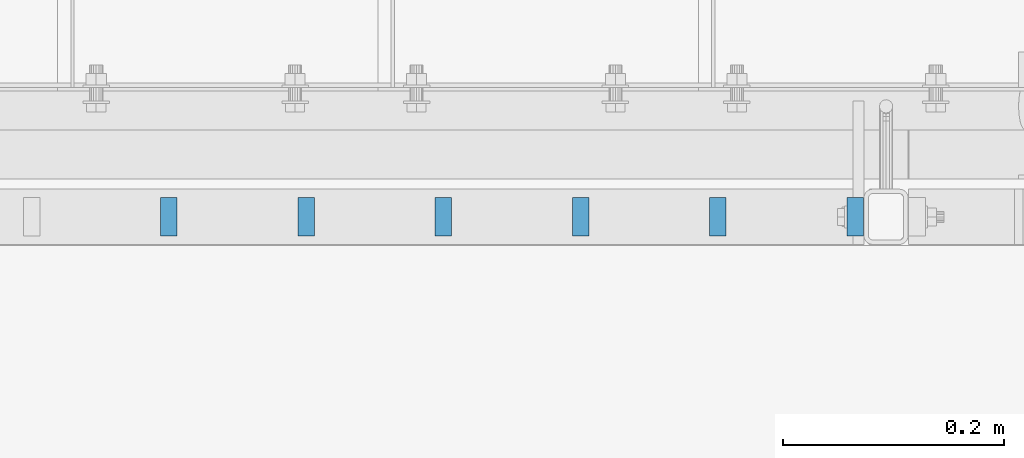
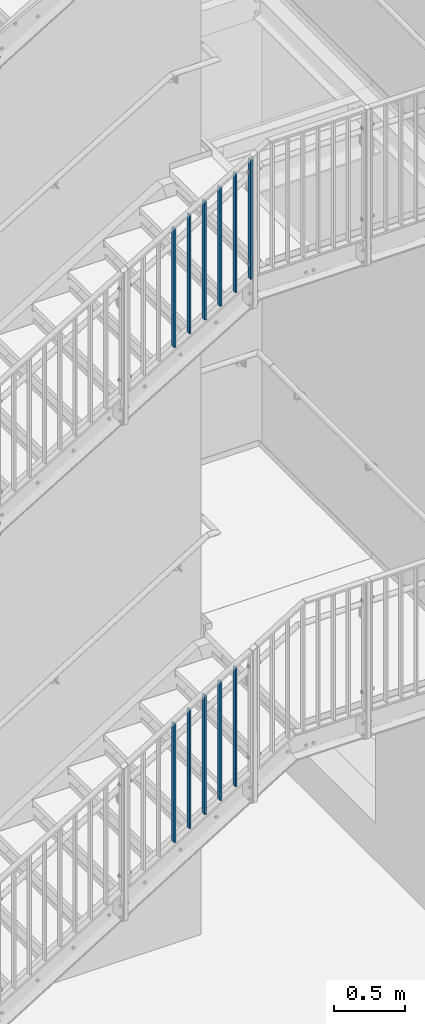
# One storey, part 18 of 410: 11 columns, 2 openings.
"""IFC2X3 building model written with IfcOpenShell, lengths in millimetres."""

import ifcopenshell
import ifcopenshell.guid

model = None  # the IFC model being written
_history = None  # IfcOwnerHistory: only IFC2X3 demands one
_inside = {}  # id of a spatial element -> (the spatial element, [elements in it])
_under = {}  # id of a project, library or spatial element -> (it, [spatial elements below it])
_declared = {}  # id of a project -> (the project, [libraries it declares])
_typed = {}  # id of a type object -> (the type object, [elements of that type])
_made_of = {}  # id of a material, layer set ... -> (it, [elements and type objects made of it])


def new_model(schema):
    """Start an empty IFC model of exactly this schema.

    Asked for "IFC4X3", IfcOpenShell would pick the latest addendum, in which some entities
    have other attributes; the version numbers below select the first issue.
    IFC2X3 requires an IfcOwnerHistory on every rooted entity: one is made here for all.
    """
    global model, _history
    if schema == "IFC4X3":
        model = ifcopenshell.file(schema_version=(4, 3, 0, 0))
    else:
        model = ifcopenshell.file(schema=schema)
    _inside.clear()
    _under.clear()
    _declared.clear()
    _typed.clear()
    _made_of.clear()
    _history = None
    if model.schema == "IFC2X3":
        org = make("IfcOrganization", Name="unknown")
        user = make(
            "IfcPersonAndOrganization",
            ThePerson=make("IfcPerson", FamilyName="unknown"),
            TheOrganization=org,
        )
        app = make(
            "IfcApplication",
            ApplicationDeveloper=org,
            Version="unknown",
            ApplicationFullName="unknown",
            ApplicationIdentifier="unknown",
        )
        _history = make(
            "IfcOwnerHistory",
            OwningUser=user,
            OwningApplication=app,
            ChangeAction="ADDED",
            CreationDate=0,
        )
    return model


def make(cls, **values):
    """One entity of the class cls with the attributes given. An attribute that is None is left unset."""
    return model.create_entity(
        cls, **{name: value for name, value in values.items() if value is not None}
    )


def entity(cls, *values):
    """Any entity or typed value of the class cls, its attributes in the order of the schema. None: left unset."""
    e = model.create_entity(cls)
    for i, value in enumerate(values):
        if value is not None:
            e[i] = value
    return e


def rooted(cls, **values):
    """An entity with a GlobalId (a new one), such as an element, a storey or a relation."""
    return make(cls, GlobalId=ifcopenshell.guid.new(), OwnerHistory=_history, **values)


def si_unit(unit_type, name, prefix=None):
    """IfcSIUnit, for example si_unit("LENGTHUNIT", "METRE", prefix="MILLI")."""
    return make("IfcSIUnit", UnitType=unit_type, Prefix=prefix, Name=name)


def converted_unit(unit_type, name, factor, base, dimensions=None, offset=None):
    """IfcConversionBasedUnit, such as the inch: factor (a typed value) times the base unit."""
    return make(
        "IfcConversionBasedUnit"
        if offset is None
        else "IfcConversionBasedUnitWithOffset",
        ConversionOffset=offset,
        Dimensions=None
        if dimensions is None
        else entity("IfcDimensionalExponents", *dimensions),
        UnitType=unit_type,
        Name=name,
        ConversionFactor=make(
            "IfcMeasureWithUnit", ValueComponent=factor, UnitComponent=base
        ),
    )


def assignment(units):
    """IfcUnitAssignment: the units of a project."""
    return None if units is None else make("IfcUnitAssignment", Units=units)


def point(xyz):
    """IfcCartesianPoint."""
    return None if xyz is None else make("IfcCartesianPoint", Coordinates=xyz)


def direction(xyz):
    """IfcDirection."""
    return None if xyz is None else make("IfcDirection", DirectionRatios=xyz)


def frame(location, z_axis=None, x_axis=None):
    """IfcAxis2Placement3D, a coordinate frame: its origin and axes. An axis left out is left unset."""
    return make(
        "IfcAxis2Placement3D",
        Location=point(location),
        Axis=direction(z_axis),
        RefDirection=direction(x_axis),
    )


def frame_2d(location, x_axis=None):
    """IfcAxis2Placement2D, a coordinate frame in the plane: its origin and x axis."""
    return make(
        "IfcAxis2Placement2D", Location=point(location), RefDirection=direction(x_axis)
    )


def origin():
    """The frame at (0, 0, 0) with its axes left unset."""
    return frame((0.0, 0.0, 0.0))


def origin_with_axes():
    """The frame at (0, 0, 0) with the z axis (0, 0, 1) and the x axis (1, 0, 0) written out."""
    return frame((0.0, 0.0, 0.0), z_axis=(0.0, 0.0, 1.0), x_axis=(1.0, 0.0, 0.0))


def origin_2d():
    """The frame at (0, 0) in the plane with its x axis left unset."""
    return frame_2d((0.0, 0.0))


def place(relative_to, where):
    """IfcLocalPlacement: puts the frame where relative to a parent placement (None: the world)."""
    return make(
        "IfcLocalPlacement", PlacementRelTo=relative_to, RelativePlacement=where
    )


def context(
    kind, dimensions, precision=None, world=None, true_north=None, identifier=None
):
    """IfcGeometricRepresentationContext, for example the 3D "Model" context."""
    return make(
        "IfcGeometricRepresentationContext",
        ContextIdentifier=identifier,
        ContextType=kind,
        CoordinateSpaceDimension=dimensions,
        Precision=precision,
        WorldCoordinateSystem=world,
        TrueNorth=true_north,
    )


def project(units=None, contexts=None):
    """IfcProject with its units and contexts."""
    return rooted(
        "IfcProject",
        Name="project",
        RepresentationContexts=contexts,
        UnitsInContext=assignment(units),
    )


def spatial(cls, under=None, at=None, **own):
    """A site, building, storey or space (cls), placed at a placement, below another one or the project."""
    s = rooted(cls, ObjectPlacement=at, **own)
    if under is not None:
        _under.setdefault(under.id(), (under, []))[1].append(s)
    return s


def profile(cls, at=None, kind="AREA", **sizes):
    """A parametric profile (cls). Its sizes go by their IFC names, for example OverallWidth=200.0."""
    return make(cls, ProfileType=kind, Position=at, **sizes)


def rectangle(**sizes):
    """IfcRectangleProfileDef."""
    return profile("IfcRectangleProfileDef", **sizes)


def circle(**sizes):
    """IfcCircleProfileDef."""
    return profile("IfcCircleProfileDef", **sizes)


def extrude(swept, where, along, depth):
    """IfcExtrudedAreaSolid: the profile swept, set in the frame where, extruded along a direction by depth."""
    return make(
        "IfcExtrudedAreaSolid",
        SweptArea=swept,
        Position=where,
        ExtrudedDirection=direction(along),
        Depth=depth,
    )


def shape(context_of_items, identifier, shape_type, items):
    """IfcShapeRepresentation: the items that make up one representation, for example the "Body"."""
    return make(
        "IfcShapeRepresentation",
        ContextOfItems=context_of_items,
        RepresentationIdentifier=identifier,
        RepresentationType=shape_type,
        Items=items,
    )


def material(Name=None, Category=None):
    """IfcMaterial."""
    return make("IfcMaterial", Name=Name, Category=Category)


def made_of(thing, what):
    """Note that an element or type object is made of a material, layer set ...; save() writes the relation."""
    if what is not None:
        _made_of.setdefault(what.id(), (what, []))[1].append(thing)
    return thing


def element(
    cls,
    number,
    at=None,
    inside=None,
    cuts=None,
    type_object=None,
    material=None,
    context=None,
    identifier="Body",
    shape_type=None,
    held_by="IfcProductDefinitionShape",
    body=None,
    shapes=None,
    **own,
):
    """One element of the class cls, such as IfcWall. Its Tag is "e" and its number.

    at: its placement. inside: the storey or other place that contains it. cuts: it is an
    opening in that element (IfcRelVoidsElement). A single representation is given by context,
    identifier, shape_type and body (its items); several are given by shapes. held_by: the class
    of the entity that holds the representations. save() writes the other relations.
    """
    e = rooted(cls, Tag="e%d" % number, ObjectPlacement=at, **own)
    if body is not None:
        shapes = [shape(context, identifier, shape_type, body)]
    if shapes is not None:
        e.Representation = make(held_by, Representations=shapes)
    if inside is not None:
        _inside.setdefault(inside.id(), (inside, []))[1].append(e)
    if cuts is not None:
        rooted(
            "IfcRelVoidsElement", RelatingBuildingElement=cuts, RelatedOpeningElement=e
        )
    if type_object is not None:
        _typed.setdefault(type_object.id(), (type_object, []))[1].append(e)
    return made_of(e, material)


def aggregate(whole, parts):
    """IfcRelAggregates: a whole, such as a stair, and the parts it consists of."""
    return rooted("IfcRelAggregates", RelatingObject=whole, RelatedObjects=parts)


def save(model, path):
    """Write the relations noted so far, then the file.

    IfcRelAggregates (storeys below a building ...), IfcRelContainedInSpatialStructure (elements
    in a storey), IfcRelDefinesByType, IfcRelAssociatesMaterial and IfcRelDeclares: one each for
    every whole, place, type object, material and project.
    """
    for whole, parts in _under.values():
        aggregate(whole, parts)
    for where, things in _inside.values():
        rooted(
            "IfcRelContainedInSpatialStructure",
            RelatedElements=things,
            RelatingStructure=where,
        )
    for kind, things in _typed.values():
        rooted("IfcRelDefinesByType", RelatedObjects=things, RelatingType=kind)
    for what, things in _made_of.values():
        rooted("IfcRelAssociatesMaterial", RelatedObjects=things, RelatingMaterial=what)
    for by, libraries in _declared.values():
        rooted("IfcRelDeclares", RelatingContext=by, RelatedDefinitions=libraries)
    model.write(path)


model = new_model("IFC2X3")

# Units and contexts
model_context = context("Model", 3, precision=1e-09, world=origin_with_axes())
ifc_project = project(units=[si_unit("LENGTHUNIT", "METRE", prefix="MILLI"), si_unit("AREAUNIT", "SQUARE_METRE"), si_unit("VOLUMEUNIT", "CUBIC_METRE"), converted_unit("PLANEANGLEUNIT", "DEGREE", entity("IfcPlaneAngleMeasure", 0.01745329), si_unit("PLANEANGLEUNIT", "RADIAN"), dimensions=[0, 0, 0, 0, 0, 0, 0])], contexts=[model_context])

# Site, building, storey
site_placement = place(None, origin_with_axes())
site = spatial("IfcSite", under=ifc_project, at=site_placement, Name="mKR Teilneubau & Sanierung BA1 - Ostfildern", CompositionType="ELEMENT")
building_placement = place(site_placement, origin_with_axes())
building = spatial("IfcBuilding", under=site, at=building_placement, Name="Struktur 1", CompositionType="ELEMENT")
storey_placement = place(building_placement, origin_with_axes())
storey = spatial("IfcBuildingStorey", under=building, at=storey_placement, Name="Default Storey", CompositionType="ELEMENT", Elevation=0.0)

# Columns
ifc_material = material(Name="S235JR")
for number, where, z_axis, x_axis in (
    (1, (715.751468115, 15405.999999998, -2741.191734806), (0.0, 0.0, -1.0), (1.0, 0.0, 0.0)),
    (2, (840.001468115, 15405.999999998, -2664.585183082), (0.0, 0.0, -1.0), (1.0, 0.0, 0.0)),
    (3, (964.251468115, 15405.999999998, -2587.978631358), (0.0, 0.0, -1.0), (1.0, 0.0, 0.0)),
    (4, (1088.501468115, 15405.999999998, -2511.372079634), (0.0, 0.0, -1.0), (1.0, 0.0, 0.0)),
    (5, (1212.751468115, 15405.999999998, -2434.76552791), (0.0, 0.0, -1.0), (1.0, 0.0, 0.0)),
):
    element("IfcColumn", number, at=place(None, frame(where, z_axis=z_axis, x_axis=x_axis)), inside=storey, material=ifc_material, Name="-", ObjectType="-", context=model_context, shape_type="SweptSolid", body=[
        extrude(rectangle(XDim=15.0, YDim=35.0, at=origin_2d()), origin(), (0.0, 0.0, -1.0), 1020.264209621),
    ])

# Column, openings
column_placement = place(None, frame((1337.001468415, 15405.999999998, 2902.300443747), z_axis=(0.0, 0.0, 1.0), x_axis=(-1.0, 0.0, 0.0)))
column = element("IfcColumn", 6, at=column_placement, inside=storey, material=ifc_material, Name="-", ObjectType="-", context=model_context, shape_type="SweptSolid", body=[
    extrude(rectangle(XDim=15.0, YDim=35.0, at=origin_2d()), origin(), (0.0, 0.0, -1.0), 1025.668776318),
])
opening_1_placement = place(column_placement, frame((-8.0, -6.001, -900.057446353), z_axis=(-1.0, 0.0, 0.0), x_axis=(0.0, -1.0, 0.0)))
element("IfcOpeningElement", 7, at=opening_1_placement, cuts=column, ObjectType="Opening", context=model_context, shape_type="SweptSolid", body=[
    extrude(circle(Radius=6.001, at=frame_2d((-6.001, 0.0), x_axis=(1.0, 0.0))), origin(), (0.0, 0.0, -1.0), 16.0),
])
opening_2_placement = place(column_placement, frame((-8.0, -6.001, -115.057446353), z_axis=(-1.0, 0.0, 0.0), x_axis=(0.0, -1.0, 0.0)))
element("IfcOpeningElement", 8, at=opening_2_placement, cuts=column, ObjectType="Opening", context=model_context, shape_type="SweptSolid", body=[
    extrude(circle(Radius=6.001, at=frame_2d((-6.001, 0.0), x_axis=(1.0, 0.0))), origin(), (0.0, 0.0, -1.0), 16.0),
])

# Columns
for number, where, z_axis, x_axis in (
    (9, (715.75146833, 15405.999999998, 2529.736725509), (0.0, 0.0, 1.0), (-1.0, 0.0, 0.0)),
    (10, (840.00146833, 15405.999999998, 2604.249469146), (0.0, 0.0, 1.0), (-1.0, 0.0, 0.0)),
    (11, (964.25146833, 15405.999999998, 2678.762212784), (0.0, 0.0, 1.0), (-1.0, 0.0, 0.0)),
    (12, (1088.50146833, 15405.999999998, 2753.274956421), (0.0, 0.0, 1.0), (-1.0, 0.0, 0.0)),
    (13, (1212.75146833, 15405.999999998, 2827.787700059), (0.0, 0.0, 1.0), (-1.0, 0.0, 0.0)),
):
    element("IfcColumn", number, at=place(None, frame(where, z_axis=z_axis, x_axis=x_axis)), inside=storey, material=ifc_material, Name="-", ObjectType="-", context=model_context, shape_type="SweptSolid", body=[
        extrude(rectangle(XDim=15.0, YDim=35.0, at=origin_2d()), origin(), (0.0, 0.0, -1.0), 1021.042329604),
    ])

save(model, "model.ifc")
